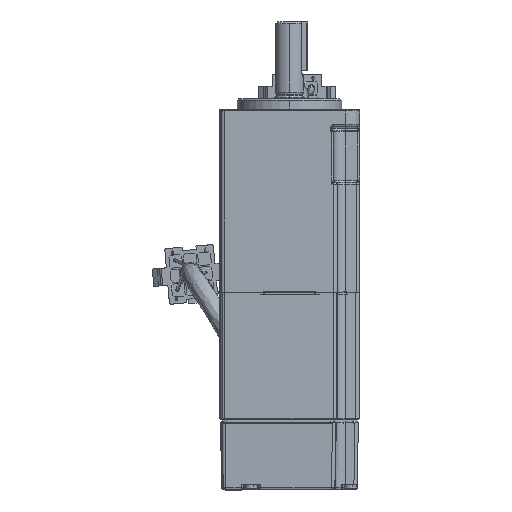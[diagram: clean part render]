
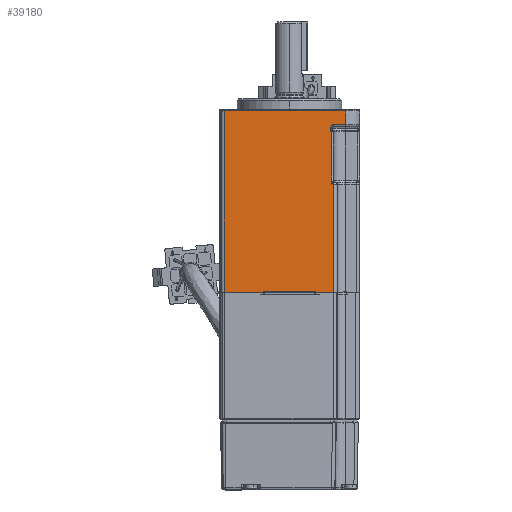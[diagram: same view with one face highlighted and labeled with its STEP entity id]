
A CAD part, front view. The second image highlights one B-rep face of the part: STEP entity #39180.
In plain terms, the highlighted planar face has unit normal (0, -1, 0).
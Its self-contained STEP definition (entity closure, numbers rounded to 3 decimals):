
#94 = DIRECTION ( 'NONE',  ( -1., 0., 0. ) ) ;
#135 = ORIENTED_EDGE ( 'NONE', *, *, #6926, .T. ) ;
#769 = DIRECTION ( 'NONE',  ( -1., 0., 0. ) ) ;
#912 = DIRECTION ( 'NONE',  ( -1., 0., 0. ) ) ;
#1454 = VERTEX_POINT ( 'NONE', #47031 ) ;
#1841 = EDGE_CURVE ( 'NONE', #4394, #41972, #45863, .T. ) ;
#2491 = CARTESIAN_POINT ( 'NONE',  ( 11.642, -20.15, -7.914 ) ) ;
#2562 = VERTEX_POINT ( 'NONE', #32093 ) ;
#2895 = CARTESIAN_POINT ( 'NONE',  ( 12.057, -20.15, -7.5 ) ) ;
#3438 = CARTESIAN_POINT ( 'NONE',  ( 12.661, -20.15, -24. ) ) ;
#3663 = DIRECTION ( 'NONE',  ( 0., 0., 1. ) ) ;
#3941 = VECTOR ( 'NONE', #28220, 1000. ) ;
#4394 = VERTEX_POINT ( 'NONE', #20511 ) ;
#4422 = CARTESIAN_POINT ( 'NONE',  ( 11.642, -20.15, -9.5 ) ) ;
#5294 = CARTESIAN_POINT ( 'NONE',  ( 20.15, -20.15, -9.5 ) ) ;
#6893 = LINE ( 'NONE', #44963, #24539 ) ;
#6926 = EDGE_CURVE ( 'NONE', #7079, #2562, #44389, .T. ) ;
#7079 = VERTEX_POINT ( 'NONE', #4422 ) ;
#8008 = FACE_OUTER_BOUND ( 'NONE', #15692, .T. ) ;
#8455 = CARTESIAN_POINT ( 'NONE',  ( -18.675, -20.15, -3.507 ) ) ;
#9175 = ORIENTED_EDGE ( 'NONE', *, *, #42995, .T. ) ;
#10043 = VECTOR ( 'NONE', #912, 1000. ) ;
#10439 =( BOUNDED_CURVE ( )  B_SPLINE_CURVE ( 3, ( #31683, #2491, #2895, #31463 ),
 .UNSPECIFIED., .F., .F. ) 
 B_SPLINE_CURVE_WITH_KNOTS ( ( 4, 4 ),
 ( 3.142, 4.712 ),
 .UNSPECIFIED. ) 
 CURVE ( )  GEOMETRIC_REPRESENTATION_ITEM ( )  RATIONAL_B_SPLINE_CURVE ( ( 1., 0.805, 0.805, 1. ) ) 
 REPRESENTATION_ITEM ( '' )  );
#11653 = VERTEX_POINT ( 'NONE', #38129 ) ;
#12327 = CARTESIAN_POINT ( 'NONE',  ( 16.15, -20.15, -3.507 ) ) ;
#12393 = LINE ( 'NONE', #5294, #10043 ) ;
#15363 = EDGE_CURVE ( 'NONE', #4394, #11653, #59451, .T. ) ;
#15577 = CARTESIAN_POINT ( 'NONE',  ( 16.15, -20.15, -7.5 ) ) ;
#15692 = EDGE_LOOP ( 'NONE', ( #31611, #39425, #59825, #36831, #54425, #135, #25956, #58470, #17792, #53143, #9175, #42688 ) ) ;
#15723 = CARTESIAN_POINT ( 'NONE',  ( -18.675, -20.15, -3.507 ) ) ;
#15957 = DIRECTION ( 'NONE',  ( -1., 0., 0. ) ) ;
#17792 = ORIENTED_EDGE ( 'NONE', *, *, #25887, .T. ) ;
#19247 = EDGE_CURVE ( 'NONE', #41972, #1454, #32466, .T. ) ;
#20423 = DIRECTION ( 'NONE',  ( 0., 0., 1. ) ) ;
#20511 = CARTESIAN_POINT ( 'NONE',  ( 12.661, -20.15, -55.5 ) ) ;
#21595 = VECTOR ( 'NONE', #94, 1000. ) ;
#21870 = CARTESIAN_POINT ( 'NONE',  ( 20.15, -20.15, -55.8 ) ) ;
#21984 = VERTEX_POINT ( 'NONE', #53718 ) ;
#22007 = EDGE_CURVE ( 'NONE', #1454, #59516, #51229, .T. ) ;
#23062 = CARTESIAN_POINT ( 'NONE',  ( -18.736, -20.15, -55.8 ) ) ;
#23190 = VECTOR ( 'NONE', #20423, 1000. ) ;
#24384 = CARTESIAN_POINT ( 'NONE',  ( 16.15, -20.15, -7.5 ) ) ;
#24539 = VECTOR ( 'NONE', #769, 1000. ) ;
#25121 = VECTOR ( 'NONE', #3663, 1000. ) ;
#25338 = CARTESIAN_POINT ( 'NONE',  ( 12.143, -20.15, -9. ) ) ;
#25887 = EDGE_CURVE ( 'NONE', #51649, #26344, #59200, .T. ) ;
#25956 = ORIENTED_EDGE ( 'NONE', *, *, #32412, .T. ) ;
#25998 = VECTOR ( 'NONE', #50824, 1000. ) ;
#26344 = VERTEX_POINT ( 'NONE', #12327 ) ;
#27767 = CARTESIAN_POINT ( 'NONE',  ( -18.695, -20.15, -3.507 ) ) ;
#28220 = DIRECTION ( 'NONE',  ( 0., 0., 1. ) ) ;
#31250 = DIRECTION ( 'NONE',  ( 0., -1., 0. ) ) ;
#31463 = CARTESIAN_POINT ( 'NONE',  ( 12.643, -20.15, -7.5 ) ) ;
#31611 = ORIENTED_EDGE ( 'NONE', *, *, #15363, .F. ) ;
#31683 = CARTESIAN_POINT ( 'NONE',  ( 11.642, -20.15, -8.5 ) ) ;
#32093 = CARTESIAN_POINT ( 'NONE',  ( 11.642, -20.15, -8.5 ) ) ;
#32395 = CARTESIAN_POINT ( 'NONE',  ( 12.661, -20.15, -24.5 ) ) ;
#32412 = EDGE_CURVE ( 'NONE', #2562, #62127, #10439, .T. ) ;
#32466 = LINE ( 'NONE', #45113, #58187 ) ;
#32668 = CARTESIAN_POINT ( 'NONE',  ( -18.715, -20.15, -3.508 ) ) ;
#34551 = CARTESIAN_POINT ( 'NONE',  ( 11.642, -20.15, -8. ) ) ;
#35956 = VECTOR ( 'NONE', #49783, 1000. ) ;
#36831 = ORIENTED_EDGE ( 'NONE', *, *, #22007, .T. ) ;
#38103 = LINE ( 'NONE', #23062, #25998 ) ;
#38129 = CARTESIAN_POINT ( 'NONE',  ( -18.736, -20.15, -55.5 ) ) ;
#39180 = ADVANCED_FACE ( 'NONE', ( #8008 ), #50905, .T. ) ;
#39425 = ORIENTED_EDGE ( 'NONE', *, *, #1841, .T. ) ;
#40033 = DIRECTION ( 'NONE',  ( 0., 0., 1. ) ) ;
#40299 = CARTESIAN_POINT ( 'NONE',  ( 12.643, -20.15, -7.5 ) ) ;
#41972 = VERTEX_POINT ( 'NONE', #32395 ) ;
#42593 = CARTESIAN_POINT ( 'NONE',  ( -18.736, -20.15, -3.51 ) ) ;
#42688 = ORIENTED_EDGE ( 'NONE', *, *, #48576, .T. ) ;
#42995 = EDGE_CURVE ( 'NONE', #56136, #21984, #58213, .T. ) ;
#44308 = EDGE_CURVE ( 'NONE', #59516, #7079, #12393, .T. ) ;
#44389 = LINE ( 'NONE', #34551, #58748 ) ;
#44963 = CARTESIAN_POINT ( 'NONE',  ( 20.15, -20.15, -3.507 ) ) ;
#45113 = CARTESIAN_POINT ( 'NONE',  ( 20.15, -20.15, -24.5 ) ) ;
#45863 = LINE ( 'NONE', #3438, #3941 ) ;
#47031 = CARTESIAN_POINT ( 'NONE',  ( 12.143, -20.15, -24.5 ) ) ;
#47462 = AXIS2_PLACEMENT_3D ( 'NONE', #21870, #31250, #55558 ) ;
#48301 = CARTESIAN_POINT ( 'NONE',  ( 20.15, -20.15, -55.5 ) ) ;
#48576 = EDGE_CURVE ( 'NONE', #21984, #11653, #38103, .T. ) ;
#49783 = DIRECTION ( 'NONE',  ( 1., 0., 0. ) ) ;
#50824 = DIRECTION ( 'NONE',  ( 0., 0., -1. ) ) ;
#50905 = PLANE ( 'NONE',  #47462 ) ;
#51229 = LINE ( 'NONE', #25338, #23190 ) ;
#51360 = CARTESIAN_POINT ( 'NONE',  ( 12.143, -20.15, -9.5 ) ) ;
#51649 = VERTEX_POINT ( 'NONE', #24384 ) ;
#52352 = CARTESIAN_POINT ( 'NONE',  ( 16.15, -20.15, -55.8 ) ) ;
#53143 = ORIENTED_EDGE ( 'NONE', *, *, #57208, .T. ) ;
#53718 = CARTESIAN_POINT ( 'NONE',  ( -18.736, -20.15, -3.51 ) ) ;
#54425 = ORIENTED_EDGE ( 'NONE', *, *, #44308, .T. ) ;
#55558 = DIRECTION ( 'NONE',  ( 1., 0., 0. ) ) ;
#56136 = VERTEX_POINT ( 'NONE', #15723 ) ;
#57208 = EDGE_CURVE ( 'NONE', #26344, #56136, #6893, .T. ) ;
#57229 = EDGE_CURVE ( 'NONE', #62127, #51649, #61639, .T. ) ;
#58187 = VECTOR ( 'NONE', #15957, 1000. ) ;
#58213 =( BOUNDED_CURVE ( )  B_SPLINE_CURVE ( 3, ( #8455, #27767, #32668, #42593 ),
 .UNSPECIFIED., .F., .F. ) 
 B_SPLINE_CURVE_WITH_KNOTS ( ( 4, 4 ),
 ( 3.665, 3.761 ),
 .UNSPECIFIED. ) 
 CURVE ( )  GEOMETRIC_REPRESENTATION_ITEM ( )  RATIONAL_B_SPLINE_CURVE ( ( 1., 0.999, 0.999, 1. ) ) 
 REPRESENTATION_ITEM ( '' )  );
#58470 = ORIENTED_EDGE ( 'NONE', *, *, #57229, .T. ) ;
#58748 = VECTOR ( 'NONE', #40033, 1000. ) ;
#59200 = LINE ( 'NONE', #52352, #25121 ) ;
#59451 = LINE ( 'NONE', #48301, #21595 ) ;
#59516 = VERTEX_POINT ( 'NONE', #51360 ) ;
#59825 = ORIENTED_EDGE ( 'NONE', *, *, #19247, .T. ) ;
#61639 = LINE ( 'NONE', #15577, #35956 ) ;
#62127 = VERTEX_POINT ( 'NONE', #40299 ) ;
